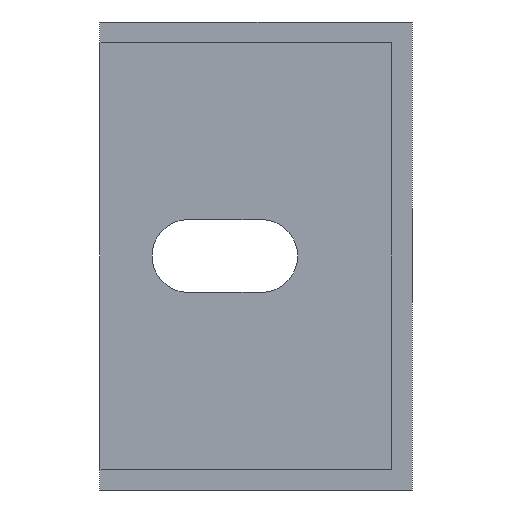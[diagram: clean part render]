
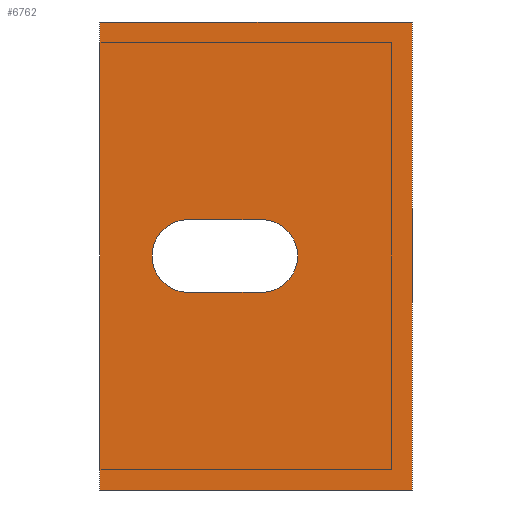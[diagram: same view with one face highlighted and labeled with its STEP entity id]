
A CAD part, left-side view. The second image highlights one B-rep face of the part: STEP entity #6762.
In plain terms, the highlighted planar face has unit normal (-1, 0, 0).
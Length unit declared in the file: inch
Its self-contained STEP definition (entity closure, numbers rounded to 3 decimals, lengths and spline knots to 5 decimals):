
#38=DIRECTION('',(0.,0.,-1.));
#39=VECTOR('',#38,1.77165);
#40=CARTESIAN_POINT('',(-9.88189,0.,0.88583));
#41=LINE('',#40,#39);
#758=DIRECTION('',(0.,-1.,0.));
#759=VECTOR('',#758,1.1811);
#760=CARTESIAN_POINT('',(-9.88189,1.1811,
-0.88583));
#761=LINE('',#760,#759);
#762=DIRECTION('',(0.,1.,0.));
#763=VECTOR('',#762,1.1811);
#764=CARTESIAN_POINT('',(-9.88189,0.,0.88583));
#765=LINE('',#764,#763);
#766=CARTESIAN_POINT('',(-9.88189,0.57087,0.));
#767=DIRECTION('',(1.,0.,0.));
#768=DIRECTION('',(0.,0.,1.));
#769=AXIS2_PLACEMENT_3D('',#766,#767,#768);
#771=CARTESIAN_POINT('',(-9.88189,0.84646,0.));
#772=DIRECTION('',(1.,0.,0.));
#773=DIRECTION('',(0.,0.,-1.));
#774=AXIS2_PLACEMENT_3D('',#771,#772,#773);
#966=DIRECTION('',(0.,0.,1.));
#967=VECTOR('',#966,1.77165);
#968=CARTESIAN_POINT('',(-9.88189,1.1811,
-0.88583));
#969=LINE('',#968,#967);
#4550=DIRECTION('',(0.,1.,0.));
#4551=VECTOR('',#4550,0.27559);
#4552=CARTESIAN_POINT('',(-9.88189,0.57087,
0.1378));
#4553=LINE('',#4552,#4551);
#4566=DIRECTION('',(0.,-1.,0.));
#4567=VECTOR('',#4566,0.27559);
#4568=CARTESIAN_POINT('',(-9.88189,0.84646,
-0.1378));
#4569=LINE('',#4568,#4567);
#4868=CARTESIAN_POINT('',(-9.88189,0.57087,
0.1378));
#4870=VERTEX_POINT('',#4868);
#5090=CARTESIAN_POINT('',(-9.88189,1.1811,
0.88583));
#5091=VERTEX_POINT('',#5090);
#5092=CARTESIAN_POINT('',(-9.88189,1.1811,
-0.88583));
#5093=VERTEX_POINT('',#5092);
#5212=CARTESIAN_POINT('',(-9.88189,0.57087,
-0.1378));
#5213=VERTEX_POINT('',#5212);
#5348=CARTESIAN_POINT('',(-9.88189,0.84646,
0.1378));
#5349=VERTEX_POINT('',#5348);
#5464=CARTESIAN_POINT('',(-9.88189,0.,0.88583));
#5465=VERTEX_POINT('',#5464);
#5470=CARTESIAN_POINT('',(-9.88189,0.,-0.88583));
#5471=VERTEX_POINT('',#5470);
#5492=CARTESIAN_POINT('',(-9.88189,0.84646,
-0.1378));
#5493=VERTEX_POINT('',#5492);
#6739=CARTESIAN_POINT('',(-9.88189,0.,5.76728));
#6740=DIRECTION('',(-1.,0.,0.));
#6741=DIRECTION('',(0.,-1.,0.));
#6742=AXIS2_PLACEMENT_3D('',#6739,#6740,#6741);
#6743=PLANE('',#6742);
#6744=ORIENTED_EDGE('',*,*,#6083,.T.);
#6746=ORIENTED_EDGE('',*,*,#6745,.F.);
#6748=ORIENTED_EDGE('',*,*,#6747,.T.);
#6749=ORIENTED_EDGE('',*,*,#6427,.F.);
#6750=EDGE_LOOP('',(#6744,#6746,#6748,#6749));
#6751=FACE_OUTER_BOUND('',#6750,.F.);
#6753=ORIENTED_EDGE('',*,*,#6752,.F.);
#6755=ORIENTED_EDGE('',*,*,#6754,.T.);
#6757=ORIENTED_EDGE('',*,*,#6756,.F.);
#6759=ORIENTED_EDGE('',*,*,#6758,.T.);
#6760=EDGE_LOOP('',(#6753,#6755,#6757,#6759));
#6761=FACE_BOUND('',#6760,.F.);
#770=CIRCLE('',#769,0.1378);
#775=CIRCLE('',#774,0.1378);
#6083=EDGE_CURVE('',#5465,#5471,#41,.T.);
#6427=EDGE_CURVE('',#5465,#5091,#765,.T.);
#6745=EDGE_CURVE('',#5093,#5471,#761,.T.);
#6747=EDGE_CURVE('',#5093,#5091,#969,.T.);
#6752=EDGE_CURVE('',#4870,#5213,#770,.T.);
#6754=EDGE_CURVE('',#4870,#5349,#4553,.T.);
#6756=EDGE_CURVE('',#5493,#5349,#775,.T.);
#6758=EDGE_CURVE('',#5493,#5213,#4569,.T.);
#6762=ADVANCED_FACE('',(#6751,#6761),#6743,.T.);
